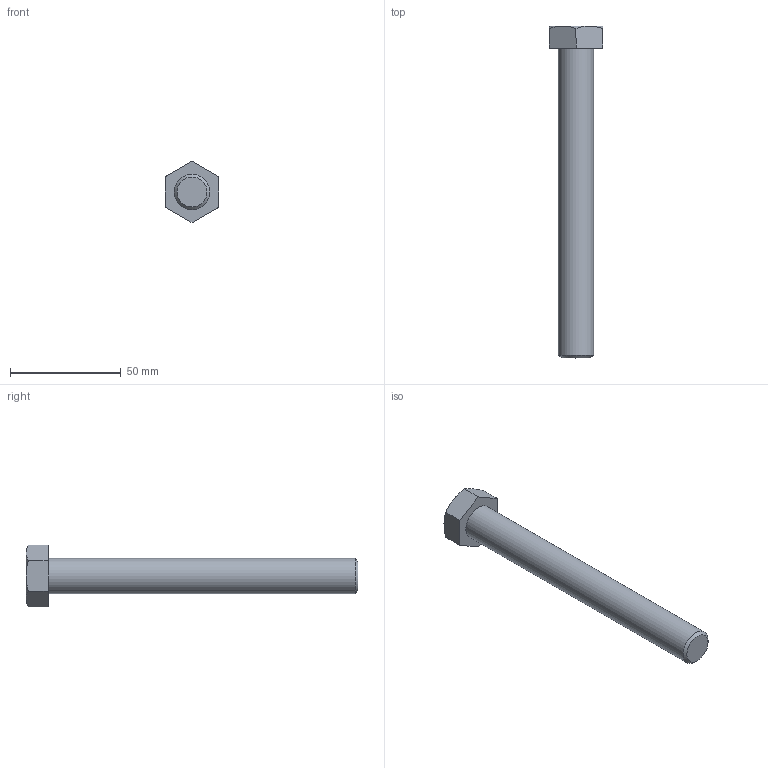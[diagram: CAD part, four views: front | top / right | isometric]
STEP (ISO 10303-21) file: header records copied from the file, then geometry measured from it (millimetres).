
FILE_DESCRIPTION(/* description */ (''),/* implementation_level */ '2;1');
FILE_NAME(/* name */ 'C:\Users\unitec\Documents\Inventor\各種小物\JIS\JIS B 1180 六角ボルト 等級C\hbc16\M16x140.stp',/* time_stamp */ '2015-02-13T14:52:11+09:00',/* author */ ('unitec'),/* organization */ (''),/* preprocessor_version */ 'ST-DEVELOPER v15.2',/* originating_system */ 'Autodesk Inventor 2014',/* authorisation */ '');
FILE_SCHEMA (('AUTOMOTIVE_DESIGN { 1 0 10303 214 3 1 1 }'));
Length unit declared in the file: millimetre
Products named in the file (1): M16x140
Bounding box: 24 x 150 x 27.71 mm (x, y, z)
Volume: 33085.9 mm3; surface area: 8804.6 mm2
Topology: 1 solids, 1 shells, 17 faces, 35 edges, 21 vertices
Faces by surface type: plane 9, cone 7, cylinder 1
Full cylindrical faces by diameter (mm): 16 x1
Entity records: 441 total; most frequent: CARTESIAN_POINT 96, ORIENTED_EDGE 66, DIRECTION 66, EDGE_CURVE 33, AXIS2_PLACEMENT_3D 27, VERTEX_POINT 21, EDGE_LOOP 20, ADVANCED_FACE 17
